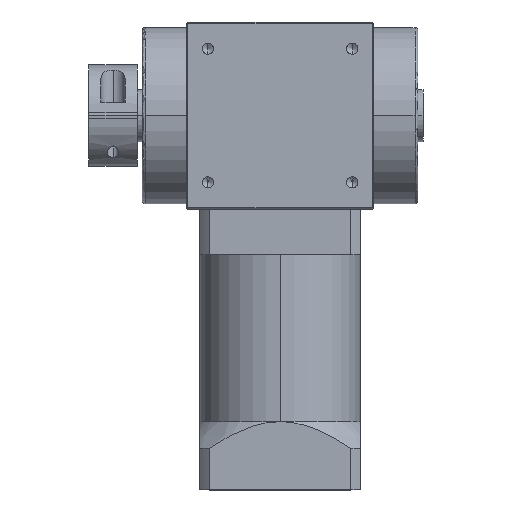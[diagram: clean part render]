
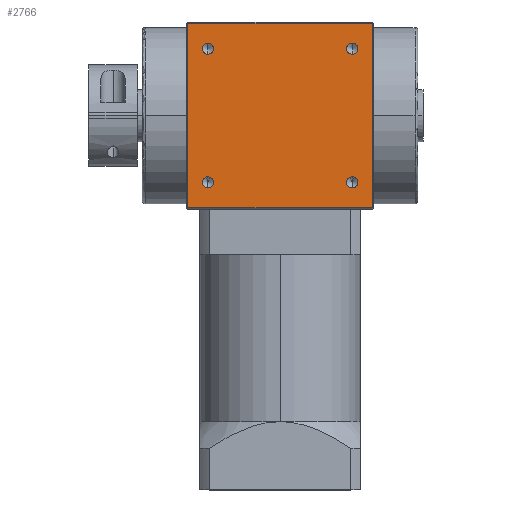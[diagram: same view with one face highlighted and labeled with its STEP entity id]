
A CAD part, top view. The second image highlights one B-rep face of the part: STEP entity #2766.
In plain terms, the highlighted planar face has unit normal (0, 0, 1).
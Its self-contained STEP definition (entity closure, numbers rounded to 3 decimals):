
#62 = CARTESIAN_POINT ( 'NONE',  ( -27., -27.1, 35. ) ) ;
#99 = LINE ( 'NONE', #1034, #4641 ) ;
#147 = CARTESIAN_POINT ( 'NONE',  ( 27., 27.1, 35. ) ) ;
#158 = CARTESIAN_POINT ( 'NONE',  ( -27., 25., 35. ) ) ;
#361 = DIRECTION ( 'NONE',  ( 0., -1., 0. ) ) ;
#386 = EDGE_CURVE ( 'NONE', #6237, #389, #10618, .T. ) ;
#389 = VERTEX_POINT ( 'NONE', #62 ) ;
#406 = EDGE_CURVE ( 'NONE', #1677, #662, #10349, .T. ) ;
#662 = VERTEX_POINT ( 'NONE', #147 ) ;
#764 = CARTESIAN_POINT ( 'NONE',  ( -27., 22.9, 35. ) ) ;
#994 = DIRECTION ( 'NONE',  ( 0., -1., 0. ) ) ;
#1034 = CARTESIAN_POINT ( 'NONE',  ( -34.5, 0., 35. ) ) ;
#1071 = ORIENTED_EDGE ( 'NONE', *, *, #1305, .F. ) ;
#1193 = VERTEX_POINT ( 'NONE', #8942 ) ;
#1305 = EDGE_CURVE ( 'NONE', #2132, #1505, #2196, .T. ) ;
#1308 = CARTESIAN_POINT ( 'NONE',  ( 27., -22.9, 35. ) ) ;
#1339 = ORIENTED_EDGE ( 'NONE', *, *, #8427, .F. ) ;
#1350 = VERTEX_POINT ( 'NONE', #764 ) ;
#1505 = VERTEX_POINT ( 'NONE', #1308 ) ;
#1669 = CIRCLE ( 'NONE', #8279, 2.1 ) ;
#1677 = VERTEX_POINT ( 'NONE', #1961 ) ;
#1808 = CARTESIAN_POINT ( 'NONE',  ( -27., -25., 35. ) ) ;
#1961 = CARTESIAN_POINT ( 'NONE',  ( 27., 22.9, 35. ) ) ;
#2108 = CARTESIAN_POINT ( 'NONE',  ( 0., 0., 35. ) ) ;
#2110 = CARTESIAN_POINT ( 'NONE',  ( -34.5, 34.5, 35. ) ) ;
#2132 = VERTEX_POINT ( 'NONE', #7237 ) ;
#2196 = CIRCLE ( 'NONE', #3767, 2.1 ) ;
#2271 = CARTESIAN_POINT ( 'NONE',  ( 0., 34.5, 35. ) ) ;
#2382 = DIRECTION ( 'NONE',  ( 0., 0., 1. ) ) ;
#2555 = EDGE_LOOP ( 'NONE', ( #1071, #6169 ) ) ;
#2747 = AXIS2_PLACEMENT_3D ( 'NONE', #2108, #8164, #2967 ) ;
#2749 = VECTOR ( 'NONE', #10075, 1000. ) ;
#2766 = ADVANCED_FACE ( 'NONE', ( #8469, #6933, #6125, #3856, #7189 ), #5492, .F. ) ;
#2797 = CARTESIAN_POINT ( 'NONE',  ( 27., -25., 35. ) ) ;
#2877 = VECTOR ( 'NONE', #8515, 1000. ) ;
#2967 = DIRECTION ( 'NONE',  ( -1., 0., 0. ) ) ;
#3319 = CARTESIAN_POINT ( 'NONE',  ( 0., -34.5, 35. ) ) ;
#3335 = CARTESIAN_POINT ( 'NONE',  ( -27., 27.1, 35. ) ) ;
#3545 = CARTESIAN_POINT ( 'NONE',  ( 27., 25., 35. ) ) ;
#3600 = ORIENTED_EDGE ( 'NONE', *, *, #4327, .F. ) ;
#3612 = EDGE_CURVE ( 'NONE', #662, #1677, #8635, .T. ) ;
#3615 = EDGE_CURVE ( 'NONE', #1350, #8841, #10958, .T. ) ;
#3641 = DIRECTION ( 'NONE',  ( 0., -1., 0. ) ) ;
#3767 = AXIS2_PLACEMENT_3D ( 'NONE', #10269, #5028, #11131 ) ;
#3843 = CIRCLE ( 'NONE', #6222, 2.1 ) ;
#3856 = FACE_BOUND ( 'NONE', #9535, .T. ) ;
#4039 = CIRCLE ( 'NONE', #8936, 2.1 ) ;
#4083 = ORIENTED_EDGE ( 'NONE', *, *, #3612, .F. ) ;
#4327 = EDGE_CURVE ( 'NONE', #9317, #4715, #99, .T. ) ;
#4409 = DIRECTION ( 'NONE',  ( 0., -1., 0. ) ) ;
#4481 = EDGE_LOOP ( 'NONE', ( #9163, #10963 ) ) ;
#4594 = EDGE_CURVE ( 'NONE', #1505, #2132, #3843, .T. ) ;
#4641 = VECTOR ( 'NONE', #5277, 1000. ) ;
#4715 = VERTEX_POINT ( 'NONE', #2110 ) ;
#5026 = LINE ( 'NONE', #2271, #2749 ) ;
#5028 = DIRECTION ( 'NONE',  ( 0., 0., 1. ) ) ;
#5157 = LINE ( 'NONE', #3319, #2877 ) ;
#5175 = DIRECTION ( 'NONE',  ( 0., -1., 0. ) ) ;
#5277 = DIRECTION ( 'NONE',  ( 0., 1., 0. ) ) ;
#5302 = AXIS2_PLACEMENT_3D ( 'NONE', #3545, #9626, #4409 ) ;
#5437 = CARTESIAN_POINT ( 'NONE',  ( 27., 25., 35. ) ) ;
#5489 = DIRECTION ( 'NONE',  ( 0., 0., 1. ) ) ;
#5492 = PLANE ( 'NONE',  #2747 ) ;
#5871 = AXIS2_PLACEMENT_3D ( 'NONE', #158, #6141, #994 ) ;
#6045 = VECTOR ( 'NONE', #5175, 1000. ) ;
#6125 = FACE_BOUND ( 'NONE', #7630, .T. ) ;
#6141 = DIRECTION ( 'NONE',  ( 0., 0., 1. ) ) ;
#6169 = ORIENTED_EDGE ( 'NONE', *, *, #4594, .F. ) ;
#6187 = DIRECTION ( 'NONE',  ( 0., 0., 1. ) ) ;
#6222 = AXIS2_PLACEMENT_3D ( 'NONE', #2797, #8838, #3641 ) ;
#6237 = VERTEX_POINT ( 'NONE', #7607 ) ;
#6239 = EDGE_LOOP ( 'NONE', ( #10167, #10598, #3600, #8616 ) ) ;
#6316 = LINE ( 'NONE', #6862, #6045 ) ;
#6862 = CARTESIAN_POINT ( 'NONE',  ( 34.5, 0., 35. ) ) ;
#6933 = FACE_BOUND ( 'NONE', #4481, .T. ) ;
#7189 = FACE_BOUND ( 'NONE', #2555, .T. ) ;
#7237 = CARTESIAN_POINT ( 'NONE',  ( 27., -27.1, 35. ) ) ;
#7522 = CARTESIAN_POINT ( 'NONE',  ( -34.5, -34.5, 35. ) ) ;
#7543 = ORIENTED_EDGE ( 'NONE', *, *, #406, .F. ) ;
#7551 = CARTESIAN_POINT ( 'NONE',  ( -27., 25., 35. ) ) ;
#7607 = CARTESIAN_POINT ( 'NONE',  ( -27., -22.9, 35. ) ) ;
#7623 = EDGE_CURVE ( 'NONE', #4715, #8924, #5026, .T. ) ;
#7630 = EDGE_LOOP ( 'NONE', ( #7543, #4083 ) ) ;
#7688 = EDGE_CURVE ( 'NONE', #8841, #1350, #1669, .T. ) ;
#7735 = EDGE_CURVE ( 'NONE', #9317, #1193, #5157, .T. ) ;
#7757 = CARTESIAN_POINT ( 'NONE',  ( 34.5, 34.5, 35. ) ) ;
#8164 = DIRECTION ( 'NONE',  ( 0., 0., -1. ) ) ;
#8276 = AXIS2_PLACEMENT_3D ( 'NONE', #5437, #6187, #11064 ) ;
#8279 = AXIS2_PLACEMENT_3D ( 'NONE', #7551, #2382, #8437 ) ;
#8427 = EDGE_CURVE ( 'NONE', #389, #6237, #4039, .T. ) ;
#8437 = DIRECTION ( 'NONE',  ( 0., -1., 0. ) ) ;
#8469 = FACE_OUTER_BOUND ( 'NONE', #6239, .T. ) ;
#8515 = DIRECTION ( 'NONE',  ( 1., 0., 0. ) ) ;
#8616 = ORIENTED_EDGE ( 'NONE', *, *, #7735, .T. ) ;
#8635 = CIRCLE ( 'NONE', #5302, 2.1 ) ;
#8838 = DIRECTION ( 'NONE',  ( 0., 0., 1. ) ) ;
#8841 = VERTEX_POINT ( 'NONE', #3335 ) ;
#8848 = AXIS2_PLACEMENT_3D ( 'NONE', #1808, #9844, #11144 ) ;
#8924 = VERTEX_POINT ( 'NONE', #7757 ) ;
#8929 = EDGE_CURVE ( 'NONE', #8924, #1193, #6316, .T. ) ;
#8936 = AXIS2_PLACEMENT_3D ( 'NONE', #10724, #5489, #361 ) ;
#8942 = CARTESIAN_POINT ( 'NONE',  ( 34.5, -34.5, 35. ) ) ;
#9163 = ORIENTED_EDGE ( 'NONE', *, *, #3615, .F. ) ;
#9317 = VERTEX_POINT ( 'NONE', #7522 ) ;
#9535 = EDGE_LOOP ( 'NONE', ( #1339, #9884 ) ) ;
#9626 = DIRECTION ( 'NONE',  ( 0., 0., 1. ) ) ;
#9844 = DIRECTION ( 'NONE',  ( 0., 0., 1. ) ) ;
#9884 = ORIENTED_EDGE ( 'NONE', *, *, #386, .F. ) ;
#10075 = DIRECTION ( 'NONE',  ( 1., 0., 0. ) ) ;
#10167 = ORIENTED_EDGE ( 'NONE', *, *, #8929, .F. ) ;
#10269 = CARTESIAN_POINT ( 'NONE',  ( 27., -25., 35. ) ) ;
#10349 = CIRCLE ( 'NONE', #8276, 2.1 ) ;
#10598 = ORIENTED_EDGE ( 'NONE', *, *, #7623, .F. ) ;
#10618 = CIRCLE ( 'NONE', #8848, 2.1 ) ;
#10724 = CARTESIAN_POINT ( 'NONE',  ( -27., -25., 35. ) ) ;
#10958 = CIRCLE ( 'NONE', #5871, 2.1 ) ;
#10963 = ORIENTED_EDGE ( 'NONE', *, *, #7688, .F. ) ;
#11064 = DIRECTION ( 'NONE',  ( 0., -1., 0. ) ) ;
#11131 = DIRECTION ( 'NONE',  ( 0., -1., 0. ) ) ;
#11144 = DIRECTION ( 'NONE',  ( 0., -1., 0. ) ) ;
